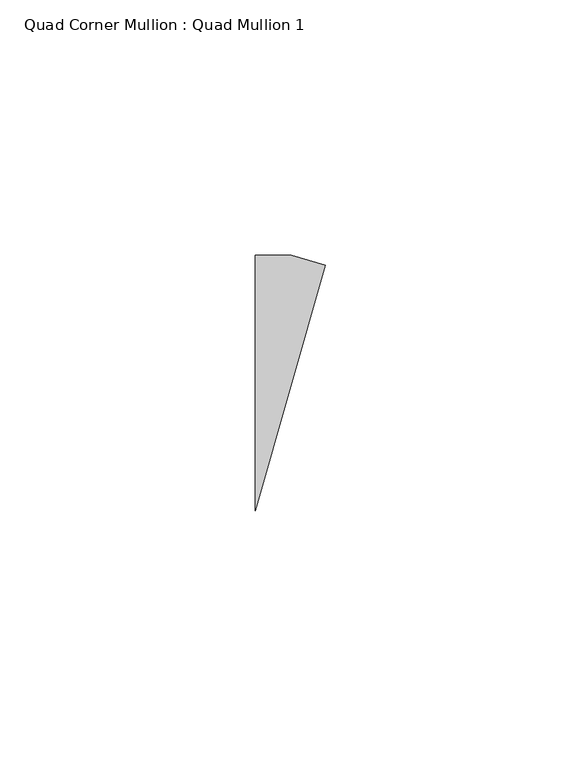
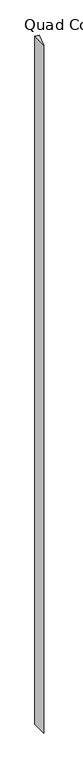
"""IFC4 building model written with IfcOpenShell, lengths in millimetres: member geometry, Quad Corner Mullion : Quad Mullion 1."""

import ifcopenshell
import ifcopenshell.guid

model = None  # the IFC model being written
_history = None  # IfcOwnerHistory: only IFC2X3 demands one
_inside = {}  # id of a spatial element -> (the spatial element, [elements in it])
_under = {}  # id of a project, library or spatial element -> (it, [spatial elements below it])
_declared = {}  # id of a project -> (the project, [libraries it declares])
_typed = {}  # id of a type object -> (the type object, [elements of that type])
_made_of = {}  # id of a material, layer set ... -> (it, [elements and type objects made of it])


def new_model(schema):
    """Start an empty IFC model of exactly this schema.

    Asked for "IFC4X3", IfcOpenShell would pick the latest addendum, in which some entities
    have other attributes; the version numbers below select the first issue.
    IFC2X3 requires an IfcOwnerHistory on every rooted entity: one is made here for all.
    """
    global model, _history
    if schema == "IFC4X3":
        model = ifcopenshell.file(schema_version=(4, 3, 0, 0))
    else:
        model = ifcopenshell.file(schema=schema)
    _inside.clear()
    _under.clear()
    _declared.clear()
    _typed.clear()
    _made_of.clear()
    _history = None
    if model.schema == "IFC2X3":
        org = make("IfcOrganization", Name="unknown")
        user = make(
            "IfcPersonAndOrganization",
            ThePerson=make("IfcPerson", FamilyName="unknown"),
            TheOrganization=org,
        )
        app = make(
            "IfcApplication",
            ApplicationDeveloper=org,
            Version="unknown",
            ApplicationFullName="unknown",
            ApplicationIdentifier="unknown",
        )
        _history = make(
            "IfcOwnerHistory",
            OwningUser=user,
            OwningApplication=app,
            ChangeAction="ADDED",
            CreationDate=0,
        )
    return model


def make(cls, **values):
    """One entity of the class cls with the attributes given. An attribute that is None is left unset."""
    return model.create_entity(
        cls, **{name: value for name, value in values.items() if value is not None}
    )


def rooted(cls, **values):
    """An entity with a GlobalId (a new one), such as an element, a storey or a relation."""
    return make(cls, GlobalId=ifcopenshell.guid.new(), OwnerHistory=_history, **values)


def si_unit(unit_type, name, prefix=None):
    """IfcSIUnit, for example si_unit("LENGTHUNIT", "METRE", prefix="MILLI")."""
    return make("IfcSIUnit", UnitType=unit_type, Prefix=prefix, Name=name)


def assignment(units):
    """IfcUnitAssignment: the units of a project."""
    return None if units is None else make("IfcUnitAssignment", Units=units)


def point(xyz):
    """IfcCartesianPoint."""
    return None if xyz is None else make("IfcCartesianPoint", Coordinates=xyz)


def direction(xyz):
    """IfcDirection."""
    return None if xyz is None else make("IfcDirection", DirectionRatios=xyz)


def frame(location, z_axis=None, x_axis=None):
    """IfcAxis2Placement3D, a coordinate frame: its origin and axes. An axis left out is left unset."""
    return make(
        "IfcAxis2Placement3D",
        Location=point(location),
        Axis=direction(z_axis),
        RefDirection=direction(x_axis),
    )


def origin():
    """The frame at (0, 0, 0) with its axes left unset."""
    return frame((0.0, 0.0, 0.0))


def place(relative_to, where):
    """IfcLocalPlacement: puts the frame where relative to a parent placement (None: the world)."""
    return make(
        "IfcLocalPlacement", PlacementRelTo=relative_to, RelativePlacement=where
    )


def context(
    kind, dimensions, precision=None, world=None, true_north=None, identifier=None
):
    """IfcGeometricRepresentationContext, for example the 3D "Model" context."""
    return make(
        "IfcGeometricRepresentationContext",
        ContextIdentifier=identifier,
        ContextType=kind,
        CoordinateSpaceDimension=dimensions,
        Precision=precision,
        WorldCoordinateSystem=world,
        TrueNorth=true_north,
    )


def project(units=None, contexts=None):
    """IfcProject with its units and contexts."""
    return rooted(
        "IfcProject",
        Name="project",
        RepresentationContexts=contexts,
        UnitsInContext=assignment(units),
    )


def spatial(cls, under=None, at=None, **own):
    """A site, building, storey or space (cls), placed at a placement, below another one or the project."""
    s = rooted(cls, ObjectPlacement=at, **own)
    if under is not None:
        _under.setdefault(under.id(), (under, []))[1].append(s)
    return s


def polyline(points):
    """IfcPolyline through the points."""
    return make("IfcPolyline", Points=[point(p) for p in points])


def outline(outer, holes=None, kind="AREA"):
    """IfcArbitraryClosedProfileDef: a profile drawn as a closed curve; with holes, ...WithVoids."""
    if holes is None:
        return make("IfcArbitraryClosedProfileDef", ProfileType=kind, OuterCurve=outer)
    return make(
        "IfcArbitraryProfileDefWithVoids",
        ProfileType=kind,
        OuterCurve=outer,
        InnerCurves=holes,
    )


def extrude(swept, where, along, depth):
    """IfcExtrudedAreaSolid: the profile swept, set in the frame where, extruded along a direction by depth."""
    return make(
        "IfcExtrudedAreaSolid",
        SweptArea=swept,
        Position=where,
        ExtrudedDirection=direction(along),
        Depth=depth,
    )


def shape(context_of_items, identifier, shape_type, items):
    """IfcShapeRepresentation: the items that make up one representation, for example the "Body"."""
    return make(
        "IfcShapeRepresentation",
        ContextOfItems=context_of_items,
        RepresentationIdentifier=identifier,
        RepresentationType=shape_type,
        Items=items,
    )


def source(mapping_origin, context_of_items, identifier, shape_type, items):
    """IfcRepresentationMap: a shape defined once, which mapped items show again and again."""
    return make(
        "IfcRepresentationMap",
        MappingOrigin=mapping_origin,
        MappedRepresentation=shape(context_of_items, identifier, shape_type, items),
    )


def transform(
    local_origin,
    x_axis=None,
    y_axis=None,
    z_axis=None,
    scale=None,
    scale2=None,
    scale3=None,
    uniform=True,
):
    """IfcCartesianTransformationOperator3D, or its non-uniform kind. x_axis, y_axis, z_axis: its Axis1, 2, 3."""
    if uniform:
        return make(
            "IfcCartesianTransformationOperator3D",
            Axis1=direction(x_axis),
            Axis2=direction(y_axis),
            LocalOrigin=point(local_origin),
            Scale=scale,
            Axis3=direction(z_axis),
        )
    return make(
        "IfcCartesianTransformationOperator3DnonUniform",
        Axis1=direction(x_axis),
        Axis2=direction(y_axis),
        LocalOrigin=point(local_origin),
        Scale=scale,
        Axis3=direction(z_axis),
        Scale2=scale2,
        Scale3=scale3,
    )


def mapped(mapping_source, mapping_target):
    """IfcMappedItem: shows the shape of a source again, moved by a transform."""
    return make(
        "IfcMappedItem", MappingSource=mapping_source, MappingTarget=mapping_target
    )


def made_of(thing, what):
    """Note that an element or type object is made of a material, layer set ...; save() writes the relation."""
    if what is not None:
        _made_of.setdefault(what.id(), (what, []))[1].append(thing)
    return thing


def element(
    cls,
    number,
    at=None,
    inside=None,
    cuts=None,
    type_object=None,
    material=None,
    context=None,
    identifier="Body",
    shape_type=None,
    held_by="IfcProductDefinitionShape",
    body=None,
    shapes=None,
    **own,
):
    """One element of the class cls, such as IfcWall. Its Tag is "e" and its number.

    at: its placement. inside: the storey or other place that contains it. cuts: it is an
    opening in that element (IfcRelVoidsElement). A single representation is given by context,
    identifier, shape_type and body (its items); several are given by shapes. held_by: the class
    of the entity that holds the representations. save() writes the other relations.
    """
    e = rooted(cls, Tag="e%d" % number, ObjectPlacement=at, **own)
    if body is not None:
        shapes = [shape(context, identifier, shape_type, body)]
    if shapes is not None:
        e.Representation = make(held_by, Representations=shapes)
    if inside is not None:
        _inside.setdefault(inside.id(), (inside, []))[1].append(e)
    if cuts is not None:
        rooted(
            "IfcRelVoidsElement", RelatingBuildingElement=cuts, RelatedOpeningElement=e
        )
    if type_object is not None:
        _typed.setdefault(type_object.id(), (type_object, []))[1].append(e)
    return made_of(e, material)


def aggregate(whole, parts):
    """IfcRelAggregates: a whole, such as a stair, and the parts it consists of."""
    return rooted("IfcRelAggregates", RelatingObject=whole, RelatedObjects=parts)


def save(model, path):
    """Write the relations noted so far, then the file.

    IfcRelAggregates (storeys below a building ...), IfcRelContainedInSpatialStructure (elements
    in a storey), IfcRelDefinesByType, IfcRelAssociatesMaterial and IfcRelDeclares: one each for
    every whole, place, type object, material and project.
    """
    for whole, parts in _under.values():
        aggregate(whole, parts)
    for where, things in _inside.values():
        rooted(
            "IfcRelContainedInSpatialStructure",
            RelatedElements=things,
            RelatingStructure=where,
        )
    for kind, things in _typed.values():
        rooted("IfcRelDefinesByType", RelatedObjects=things, RelatingType=kind)
    for what, things in _made_of.values():
        rooted("IfcRelAssociatesMaterial", RelatedObjects=things, RelatingMaterial=what)
    for by, libraries in _declared.values():
        rooted("IfcRelDeclares", RelatingContext=by, RelatedDefinitions=libraries)
    model.write(path)


def quad_corner_mullion_quad_mullion_1_79cfdd03(model_context):
    return source(origin(), model_context, "Body", "SweptSolid", [
        extrude(outline(polyline([(10.2440029, 23.072572), (-3.504736, -25.0), (-3.504736, 25.0), (3.504736, 25.0), (10.2440029, 23.072572)])), frame((0.0, 0.0, -2369.6712738), z_axis=(0.0, 0.0, 1.0), x_axis=(1.0, 0.0, 0.0)), (0.0, 0.0, 1.0), 2369.6712738),
    ])


if __name__ == "__main__":
    model = new_model("IFC4")
    model_context = context("Model", 3, world=origin())
    ifc_project = project(units=[si_unit("LENGTHUNIT", "METRE", prefix="MILLI")], contexts=[model_context])
    site = spatial("IfcSite", under=ifc_project)
    building = spatial("IfcBuilding", under=site)
    placement = place(None, origin())
    quad_corner_mullion_quad_mullion_1_shape = quad_corner_mullion_quad_mullion_1_79cfdd03(model_context)
    element("IfcMember", 1, ObjectType="Quad Corner Mullion : Quad Mullion 1", at=placement, inside=building, context=model_context, shape_type="MappedRepresentation", body=[
        mapped(quad_corner_mullion_quad_mullion_1_shape, transform((0.0, 0.0, 0.0), x_axis=(1.0, 0.0, 0.0), y_axis=(0.0, 1.0, 0.0), z_axis=(0.0, 0.0, 1.0))),
    ])
    save(model, "model.ifc")
